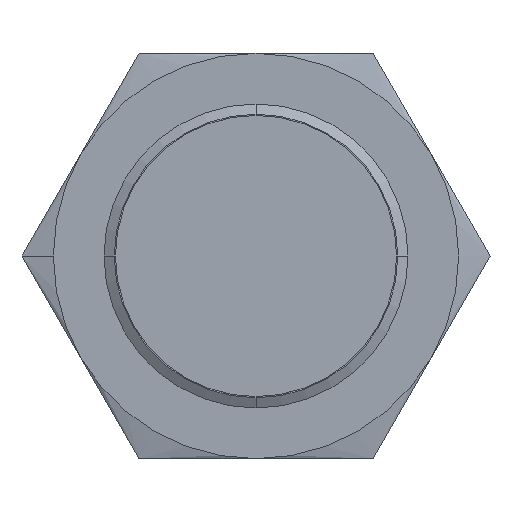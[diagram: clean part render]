
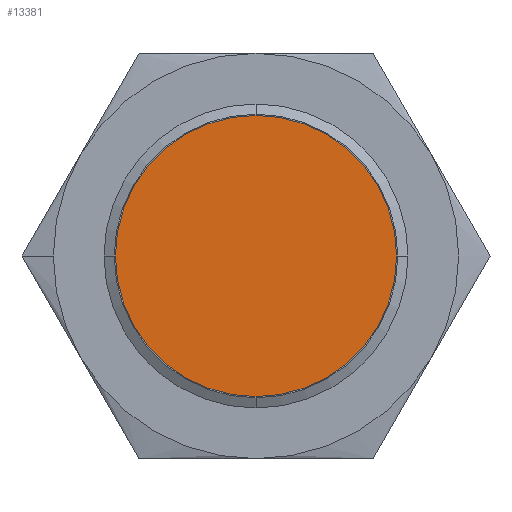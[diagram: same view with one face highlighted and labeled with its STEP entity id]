
A CAD part, left-side view. The second image highlights one B-rep face of the part: STEP entity #13381.
In plain terms, the highlighted planar face has unit normal (-1, 0, 0).
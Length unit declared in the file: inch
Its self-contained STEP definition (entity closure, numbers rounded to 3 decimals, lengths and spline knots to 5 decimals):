
#5424 = CARTESIAN_POINT ( 'NONE',  ( 7.73668, 0., -8.12049 ) ) ;
#5574 = CARTESIAN_POINT ( 'NONE',  ( 7.73668, 0., -8.77549 ) ) ;
#5755 = CIRCLE ( 'NONE', #5756, 0.3275 ) ;
#5756 = AXIS2_PLACEMENT_3D ( 'NONE', #5757, #5758, #5759 ) ;
#5757 = CARTESIAN_POINT ( 'NONE',  ( 7.73668, 0., -8.44799 ) ) ;
#5758 = DIRECTION ( 'NONE',  ( 1., 0., 0. ) ) ;
#5759 = DIRECTION ( 'NONE',  ( 0., 0., -1. ) ) ;
#8376 = CIRCLE ( 'NONE', #8377, 0.3275 ) ;
#8377 = AXIS2_PLACEMENT_3D ( 'NONE', #8378, #8379, #8380 ) ;
#8378 = CARTESIAN_POINT ( 'NONE',  ( 7.73668, 0., -8.44799 ) ) ;
#8379 = DIRECTION ( 'NONE',  ( 1., 0., 0. ) ) ;
#8380 = DIRECTION ( 'NONE',  ( 0., 0., -1. ) ) ;
#9343 = FACE_OUTER_BOUND ( 'NONE', #13170, .T. ) ;
#9344 = PLANE ( 'NONE',  #9345 ) ;
#9345 = AXIS2_PLACEMENT_3D ( 'NONE', #9346, #9347, #9348 ) ;
#9346 = CARTESIAN_POINT ( 'NONE',  ( 7.73668, 0., -8.44799 ) ) ;
#9347 = DIRECTION ( 'NONE',  ( 1., 0., 0. ) ) ;
#9348 = DIRECTION ( 'NONE',  ( 0., 0., -1. ) ) ;
#11442 = VERTEX_POINT ( 'NONE', #5424 ) ;
#11507 = VERTEX_POINT ( 'NONE', #5574 ) ;
#11560 = EDGE_CURVE ( 'NONE', #11507, #11442, #5755, .T. ) ;
#12605 = EDGE_CURVE ( 'NONE', #11442, #11507, #8376, .T. ) ;
#12706 = ORIENTED_EDGE ( 'NONE', *, *, #12605, .F. ) ;
#12851 = ORIENTED_EDGE ( 'NONE', *, *, #11560, .F. ) ;
#13170 = EDGE_LOOP ( 'NONE', ( #12851, #12706 ) ) ;
#13381 = ADVANCED_FACE ( 'NONE', ( #9343 ), #9344, .F. ) ;
